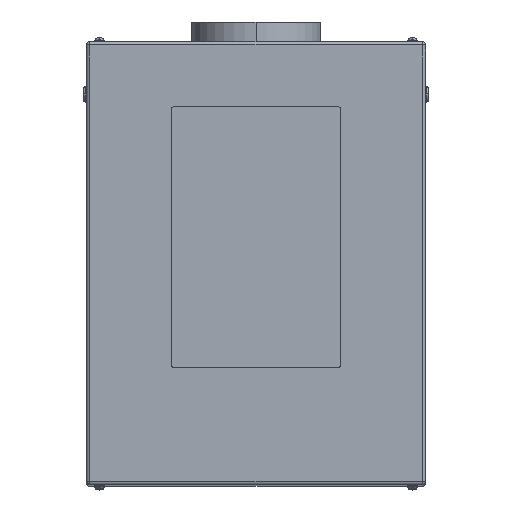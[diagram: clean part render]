
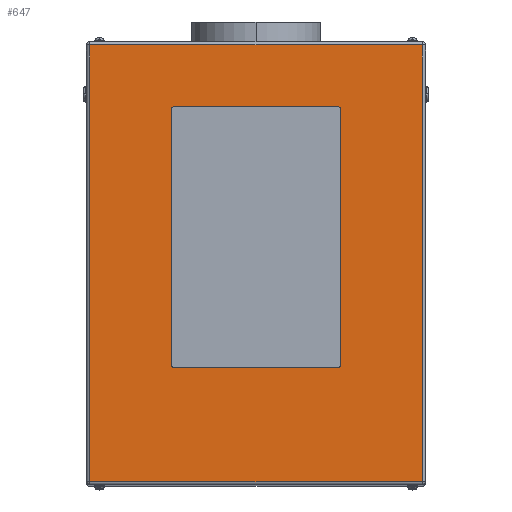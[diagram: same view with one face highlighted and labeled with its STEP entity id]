
A CAD part, top view. The second image highlights one B-rep face of the part: STEP entity #647.
In plain terms, the highlighted planar face has unit normal (0, 0, 1).
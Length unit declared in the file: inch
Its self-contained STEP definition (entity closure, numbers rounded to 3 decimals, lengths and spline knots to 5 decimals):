
#69 = CARTESIAN_POINT ( 'NONE',  ( 6.5, 11.75, 29. ) ) ;
#179 = ORIENTED_EDGE ( 'NONE', *, *, #5151, .F. ) ;
#366 = CARTESIAN_POINT ( 'NONE',  ( -6.5, -7.75, 29. ) ) ;
#552 = VECTOR ( 'NONE', #10523, 39.37008 ) ;
#601 = ORIENTED_EDGE ( 'NONE', *, *, #9807, .T. ) ;
#647 = ADVANCED_FACE ( 'NONE', ( #9967, #12543 ), #15036, .F. ) ;
#689 = AXIS2_PLACEMENT_3D ( 'NONE', #2886, #8073, #6724 ) ;
#771 = DIRECTION ( 'NONE',  ( 0., 0., 1. ) ) ;
#804 = VECTOR ( 'NONE', #16288, 39.37008 ) ;
#906 = DIRECTION ( 'NONE',  ( 1., 0., 0. ) ) ;
#1071 = EDGE_CURVE ( 'NONE', #14542, #9759, #14734, .T. ) ;
#1090 = CARTESIAN_POINT ( 'NONE',  ( 12.734, -16.734, 29. ) ) ;
#1301 = CARTESIAN_POINT ( 'NONE',  ( -6.25, -8., 29. ) ) ;
#1527 = VERTEX_POINT ( 'NONE', #16022 ) ;
#1826 = DIRECTION ( 'NONE',  ( -1., 0., 0. ) ) ;
#1981 = VERTEX_POINT ( 'NONE', #9053 ) ;
#1999 = CIRCLE ( 'NONE', #689, 0.25 ) ;
#2218 = VERTEX_POINT ( 'NONE', #69 ) ;
#2243 = CARTESIAN_POINT ( 'NONE',  ( 12.734, 16.734, 29. ) ) ;
#2634 = CARTESIAN_POINT ( 'NONE',  ( -12.734, -16.734, 29. ) ) ;
#2886 = CARTESIAN_POINT ( 'NONE',  ( 6.25, -7.75, 29. ) ) ;
#2924 = LINE ( 'NONE', #12857, #7455 ) ;
#2973 = EDGE_CURVE ( 'NONE', #2218, #1527, #16157, .T. ) ;
#3325 = DIRECTION ( 'NONE',  ( -1., 0., 0. ) ) ;
#3412 = CARTESIAN_POINT ( 'NONE',  ( -6.25, 12., 29. ) ) ;
#3607 = DIRECTION ( 'NONE',  ( -1., 0., 0. ) ) ;
#3725 = CARTESIAN_POINT ( 'NONE',  ( -6.25, 12., 29. ) ) ;
#3979 = LINE ( 'NONE', #9078, #9530 ) ;
#4226 = CARTESIAN_POINT ( 'NONE',  ( -12.734, 17., 29. ) ) ;
#4560 = CARTESIAN_POINT ( 'NONE',  ( -6.5, 11.75, 29. ) ) ;
#4751 = VERTEX_POINT ( 'NONE', #12622 ) ;
#4819 = LINE ( 'NONE', #3725, #804 ) ;
#4832 = EDGE_CURVE ( 'NONE', #9645, #5666, #16342, .T. ) ;
#4941 = EDGE_LOOP ( 'NONE', ( #10856, #601, #6947, #9743 ) ) ;
#5151 = EDGE_CURVE ( 'NONE', #1981, #12319, #1999, .T. ) ;
#5453 = CARTESIAN_POINT ( 'NONE',  ( -6.5, 11.75, 29. ) ) ;
#5532 = AXIS2_PLACEMENT_3D ( 'NONE', #10774, #771, #3325 ) ;
#5538 = ORIENTED_EDGE ( 'NONE', *, *, #5816, .F. ) ;
#5666 = VERTEX_POINT ( 'NONE', #1301 ) ;
#5816 = EDGE_CURVE ( 'NONE', #12319, #2218, #2924, .T. ) ;
#6125 = DIRECTION ( 'NONE',  ( 1., 0., 0. ) ) ;
#6202 = LINE ( 'NONE', #11294, #6422 ) ;
#6247 = ORIENTED_EDGE ( 'NONE', *, *, #2973, .F. ) ;
#6422 = VECTOR ( 'NONE', #15346, 39.37008 ) ;
#6483 = AXIS2_PLACEMENT_3D ( 'NONE', #7250, #9927, #906 ) ;
#6724 = DIRECTION ( 'NONE',  ( 1., 0., 0. ) ) ;
#6855 = VERTEX_POINT ( 'NONE', #9236 ) ;
#6883 = AXIS2_PLACEMENT_3D ( 'NONE', #9888, #14955, #3607 ) ;
#6947 = ORIENTED_EDGE ( 'NONE', *, *, #10205, .T. ) ;
#7250 = CARTESIAN_POINT ( 'NONE',  ( -6.25, 11.75, 29. ) ) ;
#7455 = VECTOR ( 'NONE', #15514, 39.37008 ) ;
#7506 = ORIENTED_EDGE ( 'NONE', *, *, #12798, .F. ) ;
#8013 = LINE ( 'NONE', #4226, #552 ) ;
#8073 = DIRECTION ( 'NONE',  ( 0., 0., 1. ) ) ;
#8223 = ORIENTED_EDGE ( 'NONE', *, *, #4832, .F. ) ;
#8296 = DIRECTION ( 'NONE',  ( 0., -1., 0. ) ) ;
#9016 = EDGE_CURVE ( 'NONE', #4751, #14864, #8013, .T. ) ;
#9053 = CARTESIAN_POINT ( 'NONE',  ( 6.25, -8., 29. ) ) ;
#9078 = CARTESIAN_POINT ( 'NONE',  ( -6.25, -8., 29. ) ) ;
#9236 = CARTESIAN_POINT ( 'NONE',  ( 12.734, -16.734, 29. ) ) ;
#9530 = VECTOR ( 'NONE', #14161, 39.37008 ) ;
#9645 = VERTEX_POINT ( 'NONE', #366 ) ;
#9743 = ORIENTED_EDGE ( 'NONE', *, *, #13789, .T. ) ;
#9759 = VERTEX_POINT ( 'NONE', #4560 ) ;
#9807 = EDGE_CURVE ( 'NONE', #14864, #6855, #16294, .T. ) ;
#9857 = VERTEX_POINT ( 'NONE', #2243 ) ;
#9888 = CARTESIAN_POINT ( 'NONE',  ( 13., 17., 29. ) ) ;
#9927 = DIRECTION ( 'NONE',  ( 0., 0., 1. ) ) ;
#9967 = FACE_BOUND ( 'NONE', #10876, .T. ) ;
#10205 = EDGE_CURVE ( 'NONE', #6855, #9857, #6202, .T. ) ;
#10411 = VECTOR ( 'NONE', #8296, 39.37008 ) ;
#10523 = DIRECTION ( 'NONE',  ( 0., -1., 0. ) ) ;
#10701 = CARTESIAN_POINT ( 'NONE',  ( 6.5, -7.75, 29. ) ) ;
#10774 = CARTESIAN_POINT ( 'NONE',  ( 6.25, 11.75, 29. ) ) ;
#10830 = CARTESIAN_POINT ( 'NONE',  ( 13., 16.734, 29. ) ) ;
#10856 = ORIENTED_EDGE ( 'NONE', *, *, #9016, .T. ) ;
#10876 = EDGE_LOOP ( 'NONE', ( #7506, #8223, #11228, #14276, #12365, #6247, #5538, #179 ) ) ;
#11228 = ORIENTED_EDGE ( 'NONE', *, *, #15258, .F. ) ;
#11294 = CARTESIAN_POINT ( 'NONE',  ( 12.734, 17., 29. ) ) ;
#11406 = DIRECTION ( 'NONE',  ( 1., 0., 0. ) ) ;
#11482 = VECTOR ( 'NONE', #11406, 39.37008 ) ;
#12319 = VERTEX_POINT ( 'NONE', #10701 ) ;
#12365 = ORIENTED_EDGE ( 'NONE', *, *, #14700, .F. ) ;
#12462 = DIRECTION ( 'NONE',  ( 0., 0., 1. ) ) ;
#12543 = FACE_OUTER_BOUND ( 'NONE', #4941, .T. ) ;
#12622 = CARTESIAN_POINT ( 'NONE',  ( -12.734, 16.734, 29. ) ) ;
#12798 = EDGE_CURVE ( 'NONE', #5666, #1981, #3979, .T. ) ;
#12857 = CARTESIAN_POINT ( 'NONE',  ( 6.5, 11.75, 29. ) ) ;
#13230 = LINE ( 'NONE', #10830, #15930 ) ;
#13359 = LINE ( 'NONE', #5453, #10411 ) ;
#13431 = AXIS2_PLACEMENT_3D ( 'NONE', #16191, #12462, #6125 ) ;
#13789 = EDGE_CURVE ( 'NONE', #9857, #4751, #13230, .T. ) ;
#14161 = DIRECTION ( 'NONE',  ( 1., 0., 0. ) ) ;
#14276 = ORIENTED_EDGE ( 'NONE', *, *, #1071, .F. ) ;
#14542 = VERTEX_POINT ( 'NONE', #3412 ) ;
#14700 = EDGE_CURVE ( 'NONE', #1527, #14542, #4819, .T. ) ;
#14734 = CIRCLE ( 'NONE', #6483, 0.25 ) ;
#14864 = VERTEX_POINT ( 'NONE', #2634 ) ;
#14955 = DIRECTION ( 'NONE',  ( 0., 0., -1. ) ) ;
#15036 = PLANE ( 'NONE',  #6883 ) ;
#15258 = EDGE_CURVE ( 'NONE', #9759, #9645, #13359, .T. ) ;
#15346 = DIRECTION ( 'NONE',  ( 0., 1., 0. ) ) ;
#15514 = DIRECTION ( 'NONE',  ( 0., 1., 0. ) ) ;
#15930 = VECTOR ( 'NONE', #1826, 39.37008 ) ;
#16022 = CARTESIAN_POINT ( 'NONE',  ( 6.25, 12., 29. ) ) ;
#16157 = CIRCLE ( 'NONE', #5532, 0.25 ) ;
#16191 = CARTESIAN_POINT ( 'NONE',  ( -6.25, -7.75, 29. ) ) ;
#16288 = DIRECTION ( 'NONE',  ( -1., 0., 0. ) ) ;
#16294 = LINE ( 'NONE', #1090, #11482 ) ;
#16342 = CIRCLE ( 'NONE', #13431, 0.25 ) ;
